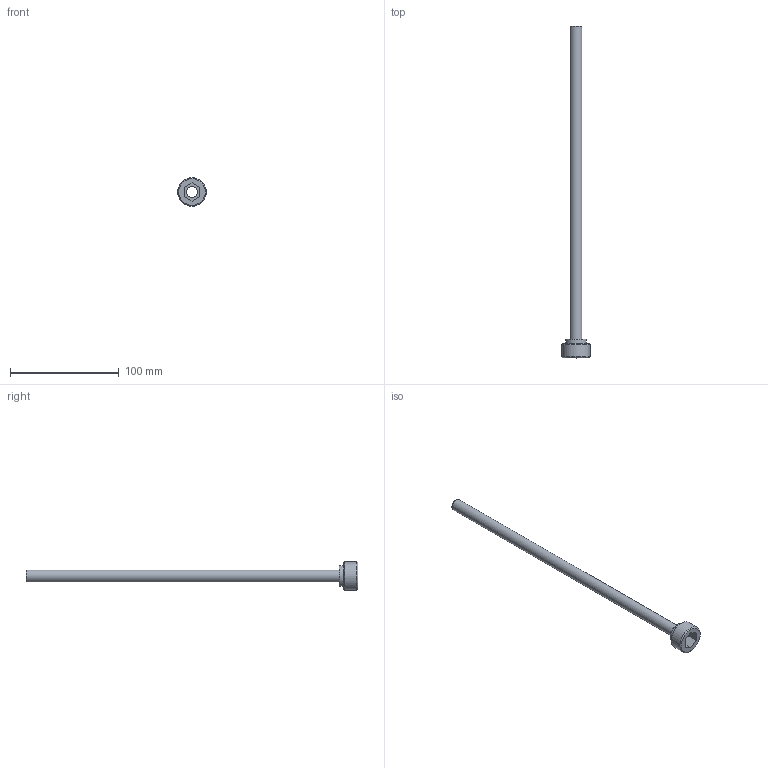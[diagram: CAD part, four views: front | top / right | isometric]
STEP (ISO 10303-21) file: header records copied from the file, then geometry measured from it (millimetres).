
FILE_DESCRIPTION(/* description */ (''),/* implementation_level */ '2;1');
FILE_NAME(/* name */ 'C:/Users/drich/Desktop/PT34-437-12 v1.step',/* time_stamp */ '2019-12-27T15:47:06-06:00',/* author */ (''),/* organization */ (''),/* preprocessor_version */ 'ST-DEVELOPER v18',/* originating_system */ 'Autodesk Translation Framework v8.12.0.6',/* authorisation */ '');
FILE_SCHEMA (('AUTOMOTIVE_DESIGN { 1 0 10303 214 3 1 1 }'));
Length unit declared in the file: inch
Products named in the file (1): PT34-437-12
Bounding box: 26.3 x 304.8 x 26.3 mm (x, y, z)
Volume: 9112.8 mm3; surface area: 21789.8 mm2
Topology: 1 solids, 1 shells, 19 faces, 48 edges, 34 vertices
Faces by surface type: plane 11, cylinder 4, torus 2, cone 2
Full cylindrical faces by diameter (mm): 10.084 x1, 10.82 x1, 19.05 x1, 26.299 x1
Entity records: 633 total; most frequent: DIRECTION 112, CARTESIAN_POINT 102, ORIENTED_EDGE 96, EDGE_CURVE 48, AXIS2_PLACEMENT_3D 44, VERTEX_POINT 34, CIRCLE 24, EDGE_LOOP 24
